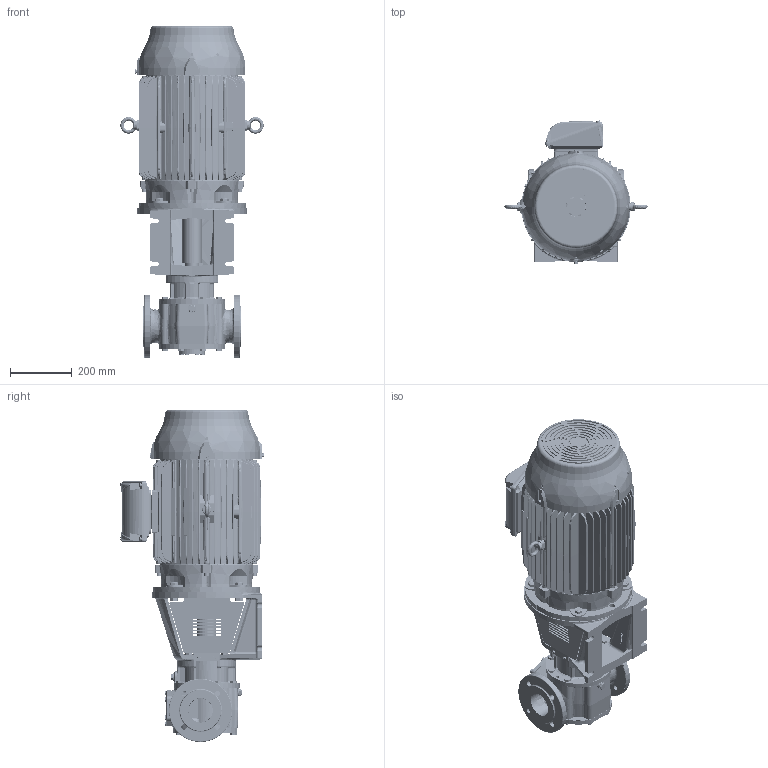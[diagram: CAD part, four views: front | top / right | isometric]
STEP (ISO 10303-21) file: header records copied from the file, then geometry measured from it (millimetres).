
FILE_DESCRIPTION(/* description */ (''),/* implementation_level */ '2;1');
FILE_NAME(/* name */ 'C:\V\JPP\Designs\GEAR PUMPS\PRODUCT ENGINEERING\EUROPE\TG BLOC\TG BLOC_58-80_R3_O_NRV-_180L-STEP.stp',/* time_stamp */ '2021-03-19T11:25:21+01:00',/* author */ ('A77THR'),/* organization */ (''),/* preprocessor_version */ 'ST-DEVELOPER v18.1',/* originating_system */ 'Autodesk Inventor 2020',/* authorisation */ '');
FILE_SCHEMA (('AUTOMOTIVE_DESIGN { 1 0 10303 214 3 1 1 }'));
Length unit declared in the file: millimetre
Products named in the file (1): TG BLOC_58-80_R3_O_NRV-_180L
Bounding box: 466 x 466.9 x 1079.7 mm (x, y, z)
Volume: 62151404.6 mm3; surface area: 2783237.9 mm2
Topology: 4 solids, 4 shells, 5240 faces, 13428 edges, 8371 vertices
Faces by surface type: plane 1882, bspline 1454, cylinder 1193, cone 536, torus 124, sphere 51
Full cylindrical faces by diameter (mm): 4 x1, 4.5 x8, 4.917 x8, 5 x4, 6.647 x1, 7 x4, 7.323 x14, 8 x13, 9 x14, 10 x8, 10.106 x7, 10.2 x2, 11.053 x4, 11.4 x14, 11.445 x2, 11.6 x3, 12 x4, 13 x1, 13.157 x2, 13.2 x2, 14 x8, 15.011 x2, 16 x5, 17.2 x20, 18 x10, 19 x6, 20.955 x1, 21 x1, 21.2 x1, 21.939 x2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
Entity records: 238438 total; most frequent: CARTESIAN_POINT 116338, ORIENTED_EDGE 26698, DIRECTION 21803, EDGE_CURVE 13349, AXIS2_PLACEMENT_3D 8558, VERTEX_POINT 8369, EDGE_LOOP 5612, FACE_OUTER_BOUND 5240
